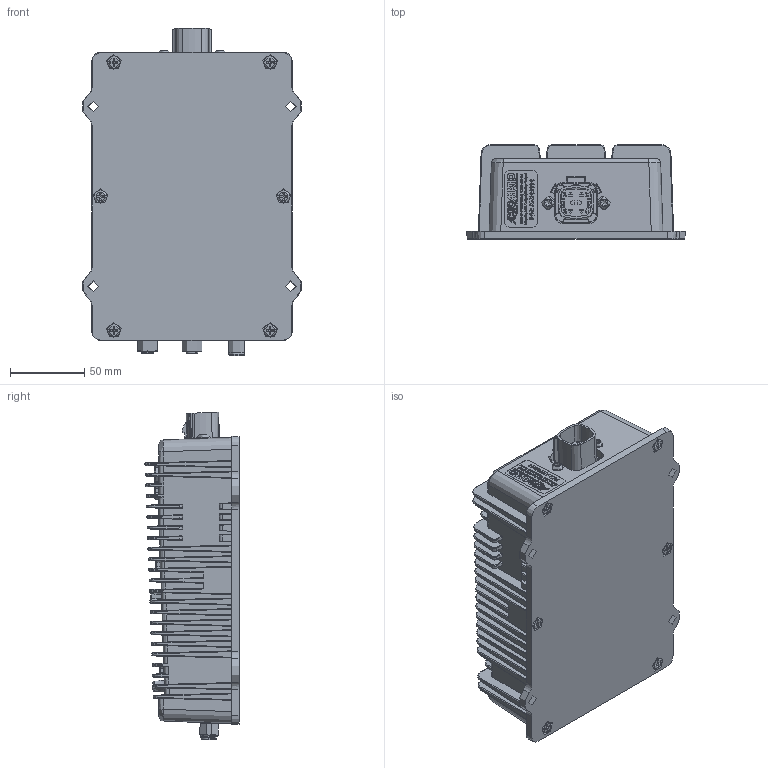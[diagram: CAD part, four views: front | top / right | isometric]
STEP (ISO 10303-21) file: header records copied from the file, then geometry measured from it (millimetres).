
FILE_DESCRIPTION(/* description */ ('','CAx-IF Rec.Pracs.---Representation and Presentation of Product Manufacturing Information (PMI)---3.8---2014-02-18'),/* implementation_level */ '2;1');
FILE_NAME(/* name */ 'S:\Projects\BI-35A-DC-MC, AX102000, Proj_16015\UNIT ASSEMBLY\RELEASED\P3\AX102000.stp',/* time_stamp */ '2020-08-04T12:27:14-04:00',/* author */ ('tfisher'),/* organization */ (''),/* preprocessor_version */ 'ST-DEVELOPER v16.13',/* originating_system */ 'Autodesk Inventor 2018',/* authorisation */ '');
FILE_SCHEMA (('AP242_MANAGED_MODEL_BASED_3D_ENGINEERING_MIM_LF { 1 0 10303 442 1 1 4 }'));
Products named in the file (1): AX102000 for STEP_Shrinkwrap_1
Bounding box: 147.04 x 63.25 x 220.37 mm (x, y, z)
Volume: 485968.2 mm3; surface area: 243770 mm2
Topology: 7 solids, 11 shells, 7846 faces, 20454 edges, 13236 vertices
Faces by surface type: plane 4120, bspline 2156, cylinder 1367, cone 99, torus 82, sphere 22
Full cylindrical faces by diameter (mm): 0.8 x8, 1 x8, 1.1 x4, 1.2 x17, 1.25 x55, 1.778 x4, 3.251 x6, 6.731 x4, 7 x2, 8.2 x1, 8.3 x1, 8.9 x6, 9.169 x2, 10.2 x1, 10.5 x1, 10.917 x1, 11 x3, 12 x1, 12.2 x1, 13 x2
Entity records: 276102 total; most frequent: CARTESIAN_POINT 88995, ORIENTED_EDGE 40426, DIRECTION 31995, EDGE_CURVE 20207, VERTEX_POINT 13177, LINE 12999, VECTOR 12999, AXIS2_PLACEMENT_3D 9502
